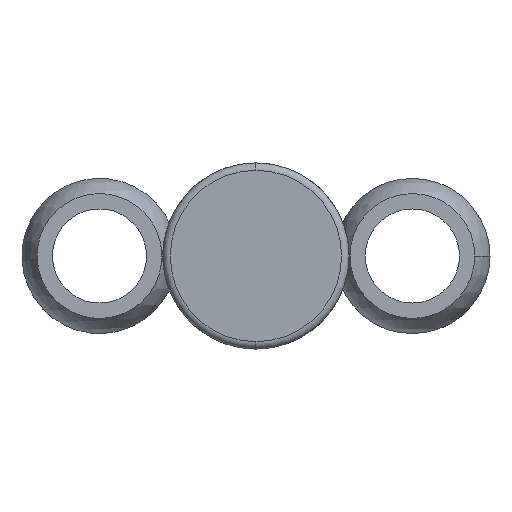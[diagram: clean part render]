
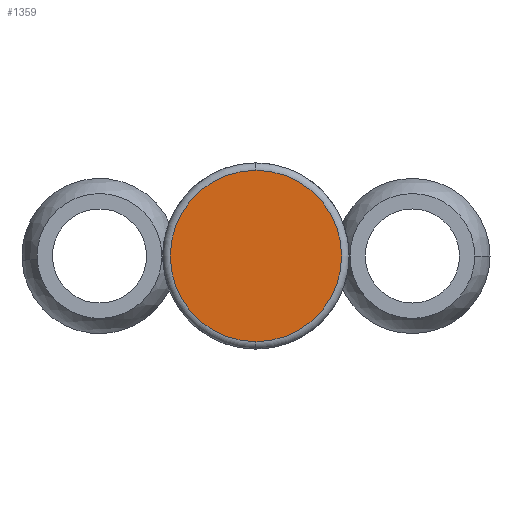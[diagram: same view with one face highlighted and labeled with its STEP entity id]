
A CAD part, front view. The second image highlights one B-rep face of the part: STEP entity #1359.
In plain terms, the highlighted planar face has unit normal (0, -1, 0).
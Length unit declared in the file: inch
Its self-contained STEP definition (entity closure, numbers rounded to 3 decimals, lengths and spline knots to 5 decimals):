
#32 = DIRECTION ( 'NONE',  ( 0., -1., 0. ) ) ;
#71 = VERTEX_POINT ( 'NONE', #1212 ) ;
#85 = DIRECTION ( 'NONE',  ( 0., 0., 1. ) ) ;
#252 = EDGE_LOOP ( 'NONE', ( #1060, #394 ) ) ;
#394 = ORIENTED_EDGE ( 'NONE', *, *, #1286, .T. ) ;
#402 = CARTESIAN_POINT ( 'NONE',  ( 0., -1.25, 0.345 ) ) ;
#426 = CARTESIAN_POINT ( 'NONE',  ( 0., -1.25, 0. ) ) ;
#538 = AXIS2_PLACEMENT_3D ( 'NONE', #426, #645, #85 ) ;
#600 = AXIS2_PLACEMENT_3D ( 'NONE', #804, #32, #1256 ) ;
#605 = VERTEX_POINT ( 'NONE', #402 ) ;
#645 = DIRECTION ( 'NONE',  ( 0., -1., 0. ) ) ;
#674 = AXIS2_PLACEMENT_3D ( 'NONE', #1145, #832, #728 ) ;
#694 = PLANE ( 'NONE',  #674 ) ;
#728 = DIRECTION ( 'NONE',  ( 0., 0., 1. ) ) ;
#744 = CIRCLE ( 'NONE', #538, 0.345 ) ;
#804 = CARTESIAN_POINT ( 'NONE',  ( 0., -1.25, 0. ) ) ;
#832 = DIRECTION ( 'NONE',  ( 0., 1., 0. ) ) ;
#999 = CIRCLE ( 'NONE', #600, 0.345 ) ;
#1060 = ORIENTED_EDGE ( 'NONE', *, *, #1111, .T. ) ;
#1094 = FACE_OUTER_BOUND ( 'NONE', #252, .T. ) ;
#1111 = EDGE_CURVE ( 'NONE', #605, #71, #744, .T. ) ;
#1145 = CARTESIAN_POINT ( 'NONE',  ( 0., -1.25, 0. ) ) ;
#1212 = CARTESIAN_POINT ( 'NONE',  ( 0., -1.25, -0.345 ) ) ;
#1256 = DIRECTION ( 'NONE',  ( 0., 0., 1. ) ) ;
#1286 = EDGE_CURVE ( 'NONE', #71, #605, #999, .T. ) ;
#1359 = ADVANCED_FACE ( 'NONE', ( #1094 ), #694, .F. ) ;
